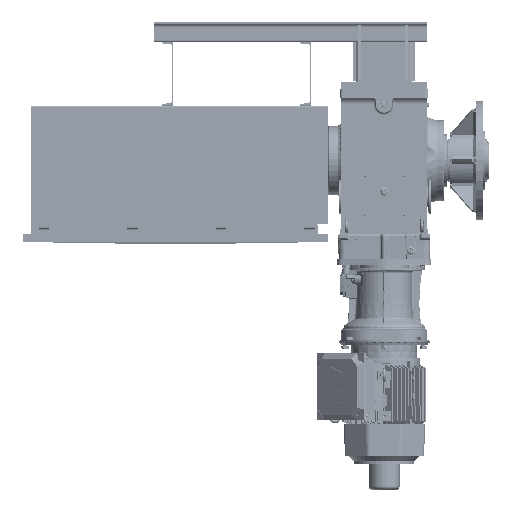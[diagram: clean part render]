
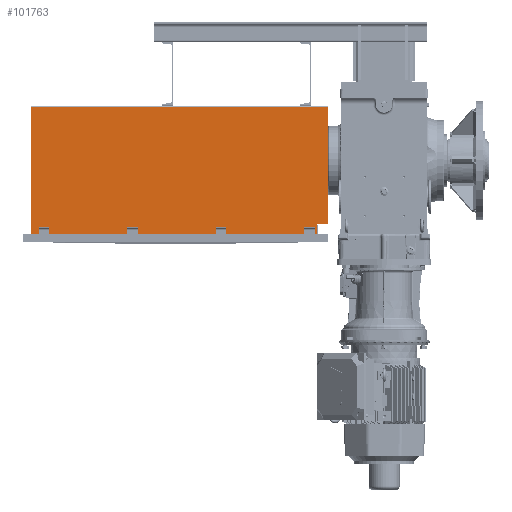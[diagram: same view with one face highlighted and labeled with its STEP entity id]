
A CAD part, top view. The second image highlights one B-rep face of the part: STEP entity #101763.
In plain terms, the highlighted planar face has unit normal (0, 0, 1).
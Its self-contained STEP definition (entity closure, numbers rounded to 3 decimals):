
#7613=PLANE('',#110496);
#12802=FACE_OUTER_BOUND('',#19416,.T.);
#19416=EDGE_LOOP('',(#85080,#85081,#85082,#85083,#85084,#85085,#85086,#85087,
#85088,#85089,#85090,#85091,#85092,#85093,#85094,#85095,#85096,#85097,#85098,
#85099,#85100,#85101));
#26701=LINE('',#184234,#33847);
#26733=LINE('',#184315,#33879);
#26761=LINE('',#184378,#33907);
#26762=LINE('',#184380,#33908);
#26763=LINE('',#184382,#33909);
#26764=LINE('',#184384,#33910);
#26765=LINE('',#184385,#33911);
#26766=LINE('',#184387,#33912);
#26767=LINE('',#184389,#33913);
#26768=LINE('',#184391,#33914);
#26769=LINE('',#184393,#33915);
#26770=LINE('',#184395,#33916);
#26771=LINE('',#184397,#33917);
#26772=LINE('',#184399,#33918);
#26773=LINE('',#184401,#33919);
#26774=LINE('',#184403,#33920);
#26775=LINE('',#184405,#33921);
#26776=LINE('',#184407,#33922);
#26777=LINE('',#184409,#33923);
#26778=LINE('',#184411,#33924);
#26779=LINE('',#184413,#33925);
#26780=LINE('',#184414,#33926);
#33847=VECTOR('',#133552,1138.);
#33879=VECTOR('',#133612,494.048);
#33907=VECTOR('',#133652,32.647);
#33908=VECTOR('',#133653,9.984);
#33909=VECTOR('',#133654,46.032);
#33910=VECTOR('',#133655,40.);
#33911=VECTOR('',#133656,448.016);
#33912=VECTOR('',#133657,28.016);
#33913=VECTOR('',#133658,32.647);
#33914=VECTOR('',#133659,40.);
#33915=VECTOR('',#133660,32.647);
#33916=VECTOR('',#133661,300.);
#33917=VECTOR('',#133662,32.647);
#33918=VECTOR('',#133663,40.);
#33919=VECTOR('',#133664,32.647);
#33920=VECTOR('',#133665,300.);
#33921=VECTOR('',#133666,32.647);
#33922=VECTOR('',#133667,40.);
#33923=VECTOR('',#133668,32.647);
#33924=VECTOR('',#133669,300.);
#33925=VECTOR('',#133670,32.647);
#33926=VECTOR('',#133671,40.);
#46703=VERTEX_POINT('',#184232);
#46704=VERTEX_POINT('',#184233);
#46739=VERTEX_POINT('',#184313);
#46767=VERTEX_POINT('',#184376);
#46768=VERTEX_POINT('',#184377);
#46769=VERTEX_POINT('',#184379);
#46770=VERTEX_POINT('',#184381);
#46771=VERTEX_POINT('',#184383);
#46772=VERTEX_POINT('',#184386);
#46773=VERTEX_POINT('',#184388);
#46774=VERTEX_POINT('',#184390);
#46775=VERTEX_POINT('',#184392);
#46776=VERTEX_POINT('',#184394);
#46777=VERTEX_POINT('',#184396);
#46778=VERTEX_POINT('',#184398);
#46779=VERTEX_POINT('',#184400);
#46780=VERTEX_POINT('',#184402);
#46781=VERTEX_POINT('',#184404);
#46782=VERTEX_POINT('',#184406);
#46783=VERTEX_POINT('',#184408);
#46784=VERTEX_POINT('',#184410);
#46785=VERTEX_POINT('',#184412);
#59780=EDGE_CURVE('',#46703,#46704,#26701,.T.);
#59822=EDGE_CURVE('',#46739,#46703,#26733,.T.);
#59852=EDGE_CURVE('',#46767,#46768,#26761,.T.);
#59853=EDGE_CURVE('',#46768,#46769,#26762,.T.);
#59854=EDGE_CURVE('',#46769,#46770,#26763,.T.);
#59855=EDGE_CURVE('',#46770,#46771,#26764,.T.);
#59856=EDGE_CURVE('',#46704,#46771,#26765,.T.);
#59857=EDGE_CURVE('',#46739,#46772,#26766,.T.);
#59858=EDGE_CURVE('',#46772,#46773,#26767,.T.);
#59859=EDGE_CURVE('',#46773,#46774,#26768,.T.);
#59860=EDGE_CURVE('',#46774,#46775,#26769,.T.);
#59861=EDGE_CURVE('',#46775,#46776,#26770,.T.);
#59862=EDGE_CURVE('',#46776,#46777,#26771,.T.);
#59863=EDGE_CURVE('',#46777,#46778,#26772,.T.);
#59864=EDGE_CURVE('',#46778,#46779,#26773,.T.);
#59865=EDGE_CURVE('',#46779,#46780,#26774,.T.);
#59866=EDGE_CURVE('',#46780,#46781,#26775,.T.);
#59867=EDGE_CURVE('',#46781,#46782,#26776,.T.);
#59868=EDGE_CURVE('',#46782,#46783,#26777,.T.);
#59869=EDGE_CURVE('',#46783,#46784,#26778,.T.);
#59870=EDGE_CURVE('',#46784,#46785,#26779,.T.);
#59871=EDGE_CURVE('',#46785,#46767,#26780,.T.);
#85080=ORIENTED_EDGE('',*,*,#59852,.T.);
#85081=ORIENTED_EDGE('',*,*,#59853,.T.);
#85082=ORIENTED_EDGE('',*,*,#59854,.T.);
#85083=ORIENTED_EDGE('',*,*,#59855,.T.);
#85084=ORIENTED_EDGE('',*,*,#59856,.F.);
#85085=ORIENTED_EDGE('',*,*,#59780,.F.);
#85086=ORIENTED_EDGE('',*,*,#59822,.F.);
#85087=ORIENTED_EDGE('',*,*,#59857,.T.);
#85088=ORIENTED_EDGE('',*,*,#59858,.T.);
#85089=ORIENTED_EDGE('',*,*,#59859,.T.);
#85090=ORIENTED_EDGE('',*,*,#59860,.T.);
#85091=ORIENTED_EDGE('',*,*,#59861,.T.);
#85092=ORIENTED_EDGE('',*,*,#59862,.T.);
#85093=ORIENTED_EDGE('',*,*,#59863,.T.);
#85094=ORIENTED_EDGE('',*,*,#59864,.T.);
#85095=ORIENTED_EDGE('',*,*,#59865,.T.);
#85096=ORIENTED_EDGE('',*,*,#59866,.T.);
#85097=ORIENTED_EDGE('',*,*,#59867,.T.);
#85098=ORIENTED_EDGE('',*,*,#59868,.T.);
#85099=ORIENTED_EDGE('',*,*,#59869,.T.);
#85100=ORIENTED_EDGE('',*,*,#59870,.T.);
#85101=ORIENTED_EDGE('',*,*,#59871,.T.);
#101763=ADVANCED_FACE('',(#12802),#7613,.T.);
#110496=AXIS2_PLACEMENT_3D('',#184375,#133650,#133651);
#133552=DIRECTION('',(1.,0.,0.));
#133612=DIRECTION('',(0.,1.,0.));
#133650=DIRECTION('center_axis',(0.,0.,
1.));
#133651=DIRECTION('ref_axis',(0.,-1.,0.));
#133652=DIRECTION('',(0.,-1.,0.));
#133653=DIRECTION('',(1.,0.,0.));
#133654=DIRECTION('',(0.,1.,0.));
#133655=DIRECTION('',(1.,0.,0.));
#133656=DIRECTION('',(0.,-1.,0.));
#133657=DIRECTION('',(1.,0.,0.));
#133658=DIRECTION('',(0.,1.,0.));
#133659=DIRECTION('',(1.,0.,0.));
#133660=DIRECTION('',(0.,-1.,0.));
#133661=DIRECTION('',(1.,0.,0.));
#133662=DIRECTION('',(0.,1.,0.));
#133663=DIRECTION('',(1.,0.,0.));
#133664=DIRECTION('',(0.,-1.,0.));
#133665=DIRECTION('',(1.,0.,0.));
#133666=DIRECTION('',(0.,1.,0.));
#133667=DIRECTION('',(1.,0.,0.));
#133668=DIRECTION('',(0.,-1.,0.));
#133669=DIRECTION('',(1.,0.,0.));
#133670=DIRECTION('',(0.,1.,0.));
#133671=DIRECTION('',(1.,0.,0.));
#184232=CARTESIAN_POINT('',(-1482.69,-4.739,676.738));
#184233=CARTESIAN_POINT('',(-344.69,-4.739,676.738));
#184234=CARTESIAN_POINT('',(-344.69,-4.739,676.738));
#184313=CARTESIAN_POINT('',(-1482.69,-498.787,676.738));
#184315=CARTESIAN_POINT('',(-1482.69,-502.755,676.738));
#184375=CARTESIAN_POINT('Origin',(-913.69,-252.755,676.738));
#184376=CARTESIAN_POINT('',(-394.673,-466.14,676.738));
#184377=CARTESIAN_POINT('',(-394.673,-498.787,676.738));
#184378=CARTESIAN_POINT('',(-394.673,-365.385,676.738));
#184379=CARTESIAN_POINT('',(-384.69,-498.787,676.738));
#184380=CARTESIAN_POINT('',(-1198.19,-498.787,676.738));
#184381=CARTESIAN_POINT('',(-384.69,-452.755,676.738));
#184382=CARTESIAN_POINT('',(-384.69,-377.755,676.738));
#184383=CARTESIAN_POINT('',(-344.69,-452.755,676.738));
#184384=CARTESIAN_POINT('',(-649.19,-452.755,676.738));
#184385=CARTESIAN_POINT('',(-344.69,-2.755,676.738));
#184386=CARTESIAN_POINT('',(-1454.673,-498.787,676.738));
#184387=CARTESIAN_POINT('',(-1198.19,-498.787,676.738));
#184388=CARTESIAN_POINT('',(-1454.673,-466.14,676.738));
#184389=CARTESIAN_POINT('',(-1454.673,-365.385,676.738));
#184390=CARTESIAN_POINT('',(-1414.673,-466.14,676.738));
#184391=CARTESIAN_POINT('',(-1174.181,-466.14,676.738));
#184392=CARTESIAN_POINT('',(-1414.673,-498.787,676.738));
#184393=CARTESIAN_POINT('',(-1414.673,-365.385,676.738));
#184394=CARTESIAN_POINT('',(-1114.673,-498.787,676.738));
#184395=CARTESIAN_POINT('',(-1198.19,-498.787,676.738));
#184396=CARTESIAN_POINT('',(-1114.673,-466.14,676.738));
#184397=CARTESIAN_POINT('',(-1114.673,-365.385,676.738));
#184398=CARTESIAN_POINT('',(-1074.673,-466.14,676.738));
#184399=CARTESIAN_POINT('',(-1004.181,-466.14,676.738));
#184400=CARTESIAN_POINT('',(-1074.673,-498.787,676.738));
#184401=CARTESIAN_POINT('',(-1074.673,-365.385,676.738));
#184402=CARTESIAN_POINT('',(-774.673,-498.787,676.738));
#184403=CARTESIAN_POINT('',(-1198.19,-498.787,676.738));
#184404=CARTESIAN_POINT('',(-774.673,-466.14,676.738));
#184405=CARTESIAN_POINT('',(-774.673,-365.385,676.738));
#184406=CARTESIAN_POINT('',(-734.673,-466.14,676.738));
#184407=CARTESIAN_POINT('',(-834.181,-466.14,676.738));
#184408=CARTESIAN_POINT('',(-734.673,-498.787,676.738));
#184409=CARTESIAN_POINT('',(-734.673,-365.385,676.738));
#184410=CARTESIAN_POINT('',(-434.673,-498.787,676.738));
#184411=CARTESIAN_POINT('',(-1198.19,-498.787,676.738));
#184412=CARTESIAN_POINT('',(-434.673,-466.14,676.738));
#184413=CARTESIAN_POINT('',(-434.673,-365.385,676.738));
#184414=CARTESIAN_POINT('',(-664.181,-466.14,676.738));
